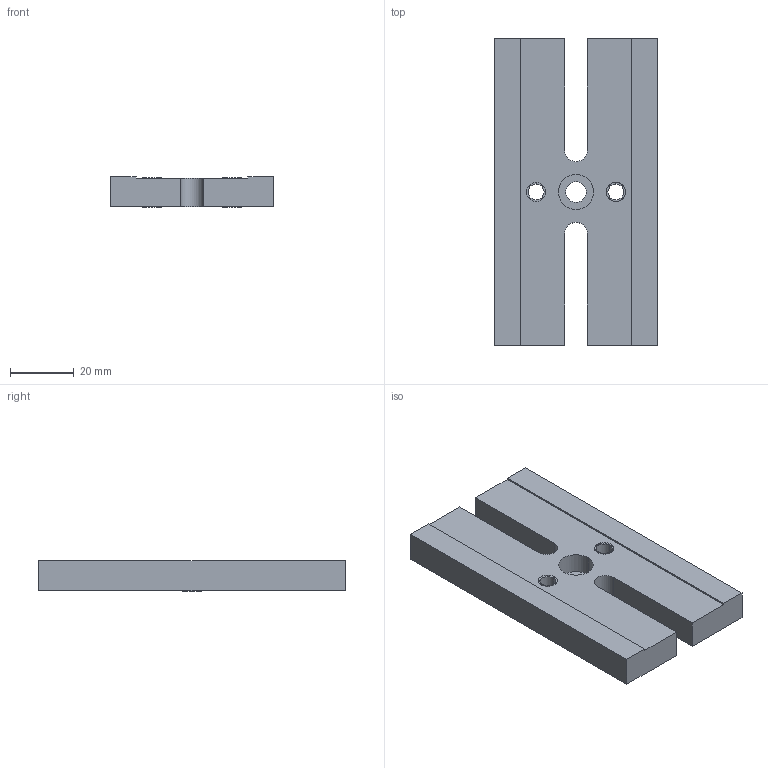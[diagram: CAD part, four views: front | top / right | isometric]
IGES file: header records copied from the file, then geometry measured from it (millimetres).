
Start section:  PTC IGES file: ESB02.igs
Global section: file name: ESB02.igs; native system: Pro/ENGINEER by Parametric Technology Corporation; preprocessor: 2006460; author: user; organization: Unknown; date: 20130717.172057; units: millimetre
Bounding box: 51 x 96 x 9.68 mm (x, y, z)
Surface area: 13737.7 mm2 (no closed solid volume)
Topology: 0 solids, 0 shells, 35 faces, 244 edges, 280 vertices
Faces by surface type: revolution 18, bspline 17
